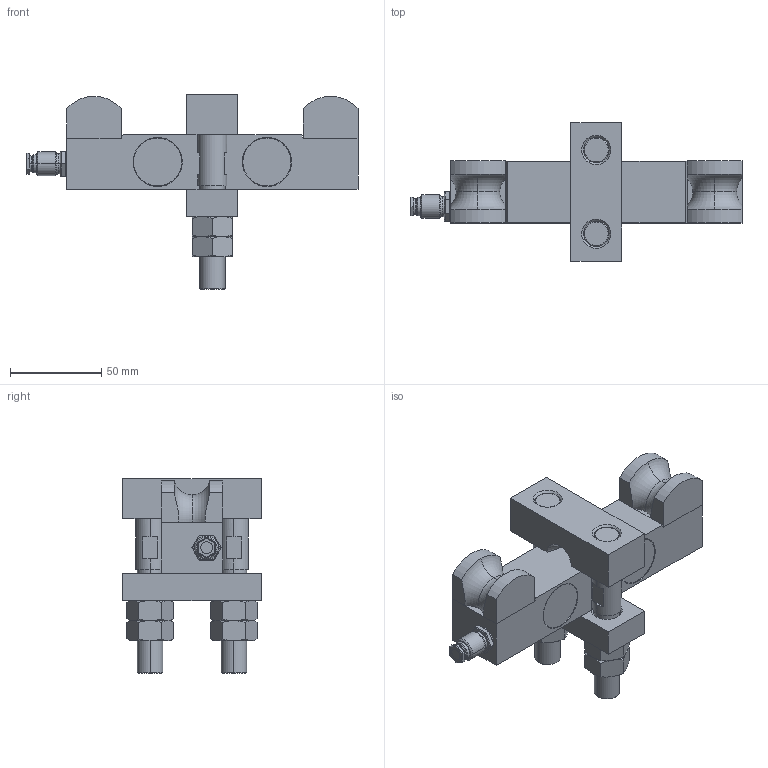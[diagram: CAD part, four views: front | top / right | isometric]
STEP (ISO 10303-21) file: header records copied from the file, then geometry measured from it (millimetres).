
FILE_DESCRIPTION((''),'1');
FILE_NAME('LULA_2000_kg.step','2018-01-22T13:11:34',(''),(''),'','','');
FILE_SCHEMA(('AUTOMOTIVE_DESIGN { 1 0 10303 214 1 1 1 1 }'));
Products named in the file (11): LULA body 01; LULA body 02; LULA screw 01; LULA part 02; LULA 2000_kg; LULA part 03; LULA plate 01; LULA screw 02; LULA plate 03; LULA nut 01; LULA cable gland 01
Assembly tree (18 placements, depth 3):
  LULA 2000_kg
    LULA body 01
      LULA body 02
      LULA screw 01  x2
      LULA part 02  x4
    LULA part 03
      LULA plate 01
      LULA screw 02  x2
      LULA plate 03
      LULA nut 01  x4
    LULA cable gland 01
Bounding box: 182.3 x 76 x 107 mm (x, y, z)
Volume: 303837.8 mm3; surface area: 76563.6 mm2
Topology: 18 solids, 18 shells, 434 faces, 956 edges, 581 vertices
Faces by surface type: plane 168, cone 130, cylinder 100, torus 34, bspline 2
Entity records: 11207 total; most frequent: CARTESIAN_POINT 2634, DIRECTION 1382, ORIENTED_EDGE 1188, EDGE_CURVE 594, AXIS2_PLACEMENT_3D 553, VERTEX_POINT 366, EDGE_LOOP 300, STYLED_ITEM 277
